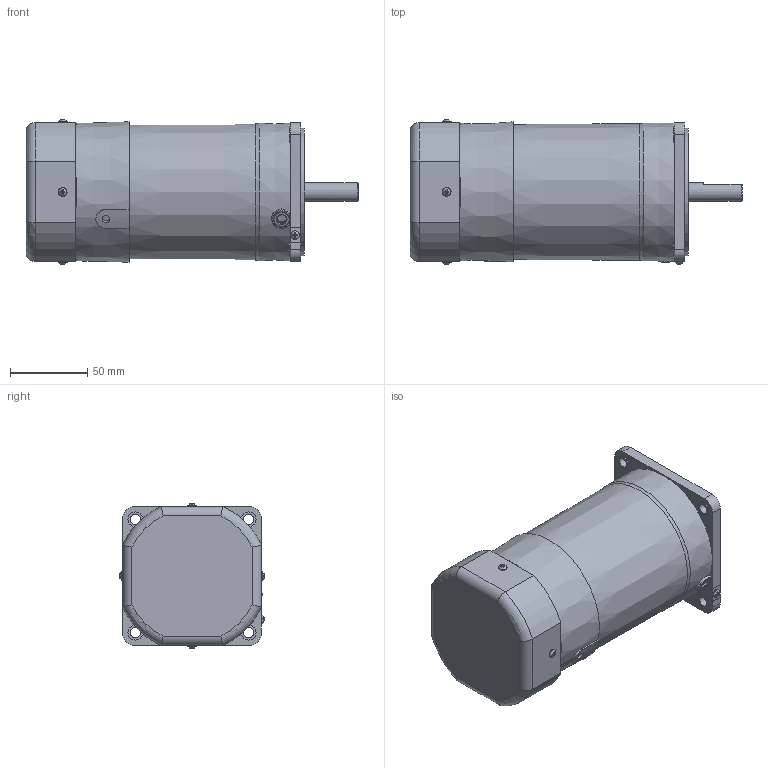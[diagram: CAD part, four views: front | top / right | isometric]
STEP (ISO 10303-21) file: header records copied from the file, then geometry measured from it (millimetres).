
FILE_DESCRIPTION(/* description */ (''),/* implementation_level */ '2;1');
FILE_NAME(/* name */ 'Y:\제품연구개발\4. 개발프로젝트\2. 프로젝트_제품군별\2. STANDARD AC\공유 (이현극)\AC 3D 파일 정리 및 검토\S9I150_-E\S9I150D_-E.stp',/* time_stamp */ '2024-01-09T10:53:04+09:00',/* author */ ('shyi1037'),/* organization */ (''),/* preprocessor_version */ 'ST-DEVELOPER v18.1',/* originating_system */ 'Autodesk Inventor 2022',/* authorisation */ '');
FILE_SCHEMA (('AUTOMOTIVE_DESIGN { 1 0 10303 214 3 1 1 }'));
Length unit declared in the file: millimetre
Products named in the file (1): S9I150D_-E
Bounding box: 215.3 x 93.89 x 93.89 mm (x, y, z)
Volume: 1142071.9 mm3; surface area: 74845 mm2
Topology: 1 solids, 6 shells, 245 faces, 619 edges, 407 vertices
Faces by surface type: plane 154, cylinder 61, torus 15, cone 9, bspline 5, sphere 1
Full cylindrical faces by diameter (mm): 3 x4, 3.5 x4, 5 x1, 5.6 x5, 6 x1, 6.5 x4, 9.5 x4, 10 x1, 12 x1, 40 x1, 83 x1, 86 x1
Entity records: 8003 total; most frequent: CARTESIAN_POINT 2075, ORIENTED_EDGE 1238, DIRECTION 1179, EDGE_CURVE 619, AXIS2_PLACEMENT_3D 417, VERTEX_POINT 407, LINE 345, VECTOR 345
